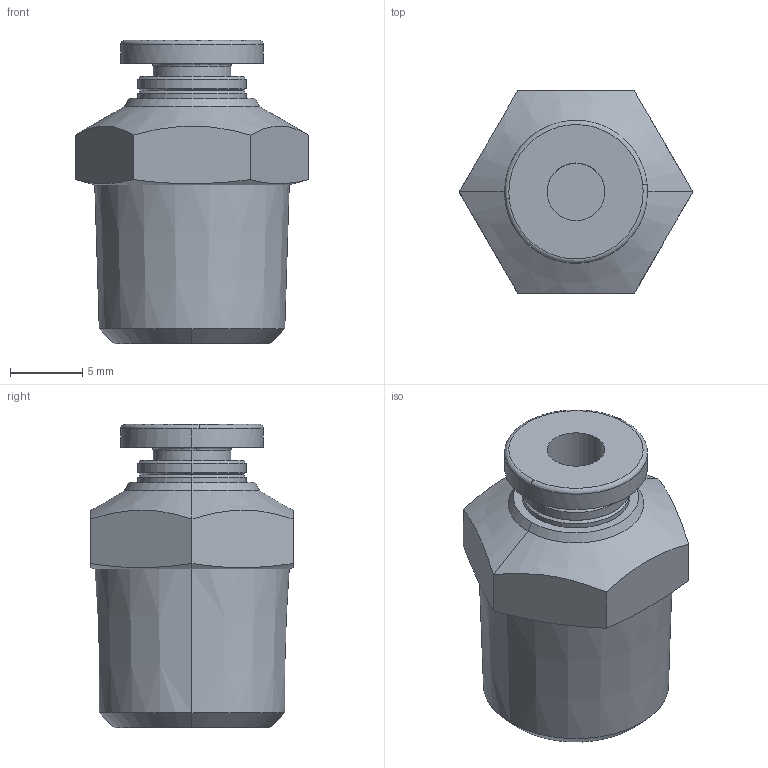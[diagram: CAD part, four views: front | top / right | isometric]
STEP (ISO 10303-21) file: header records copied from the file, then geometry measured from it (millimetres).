
FILE_DESCRIPTION (( 'STEP AP214' ), '1' );
FILE_NAME ('APC4-02.STEP', '2019-12-05T06:08:46', ( '微软用户' ), ( '微软中国' ), 'SwSTEP 2.0', 'SolidWorks 2016', '' );
FILE_SCHEMA (( 'AUTOMOTIVE_DESIGN' ));
Length unit declared in the file: millimetre
Products named in the file (1): APC4-02
Bounding box: 16.17 x 14 x 21 mm (x, y, z)
Volume: 2357.9 mm3; surface area: 1351.4 mm2
Topology: 1 solids, 1 shells, 45 faces, 103 edges, 64 vertices
Faces by surface type: cone 19, plane 12, cylinder 10, bspline 4
Entity records: 1610 total; most frequent: CARTESIAN_POINT 574, DIRECTION 215, ORIENTED_EDGE 206, EDGE_CURVE 103, AXIS2_PLACEMENT_3D 90, VERTEX_POINT 64, EDGE_LOOP 49, CIRCLE 48
